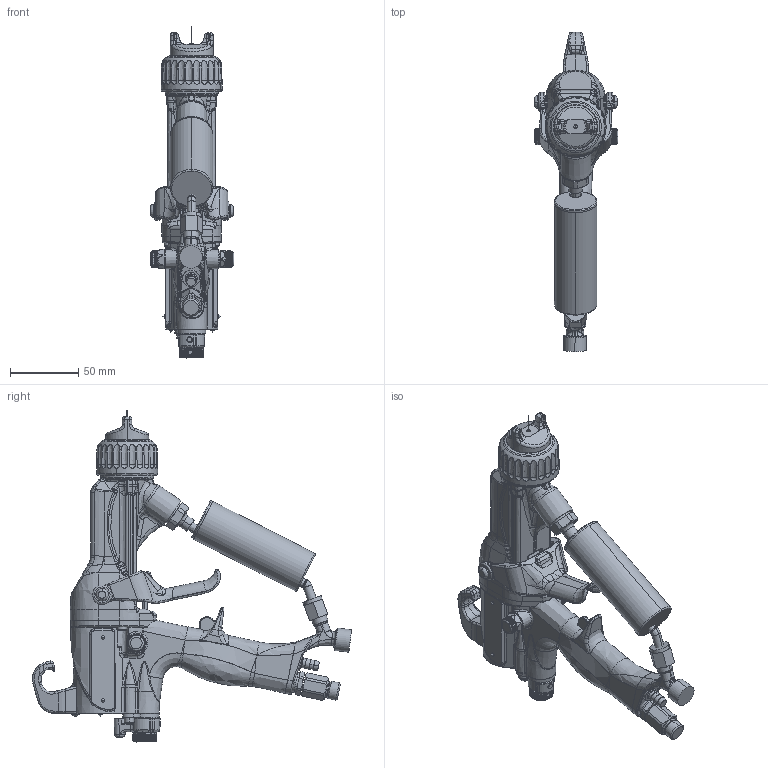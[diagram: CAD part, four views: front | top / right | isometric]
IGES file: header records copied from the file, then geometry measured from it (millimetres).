
Start section:  PTC IGES file: l60t16-en-t.igs
Global section: file name: l60t16-en-t.igs; native system: Creo Parametric by PTC Inc.; preprocessor: 2019030; author: qusrh3; organization: Unknown; date: 20200518.163605; units: inch
Bounding box: 61.27 x 233.22 x 242.52 mm (x, y, z)
Surface area: 95450.2 mm2 (no closed solid volume)
Topology: 0 solids, 0 shells, 2677 faces, 13427 edges, 13418 vertices
Faces by surface type: bspline 1401, revolution 1272, extrusion 4
